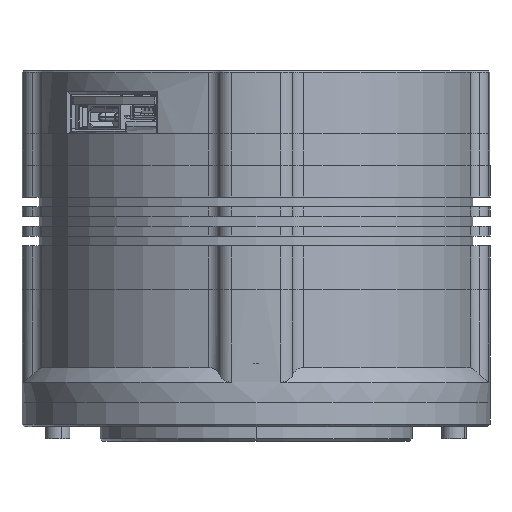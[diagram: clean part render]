
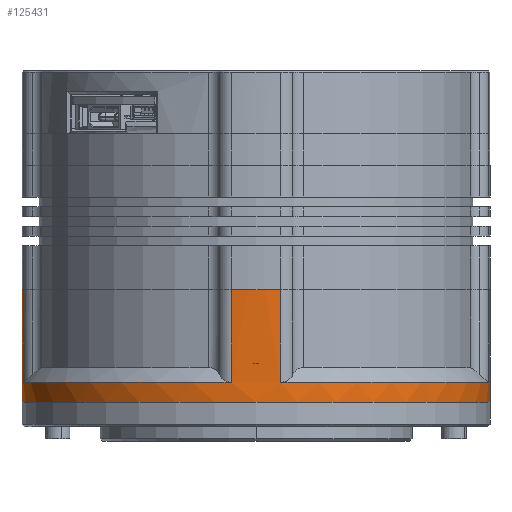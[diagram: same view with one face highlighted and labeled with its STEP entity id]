
A CAD part, front view. The second image highlights one B-rep face of the part: STEP entity #125431.
In plain terms, the highlighted cylindrical face has radius 48 mm (diameter 96 mm), a partial arc.
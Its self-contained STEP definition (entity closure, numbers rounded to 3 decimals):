
#1269 = CARTESIAN_POINT ( 'NONE',  ( -5.093, 23.1, 47.729 ) ) ;
#1360 = EDGE_LOOP ( 'NONE', ( #8471, #11304, #86524, #116928, #35773, #116336, #1703, #40946, #33873, #123012, #107004, #127170 ) ) ;
#1517 = AXIS2_PLACEMENT_3D ( 'NONE', #67242, #56515, #110091 ) ;
#1703 = ORIENTED_EDGE ( 'NONE', *, *, #72660, .T. ) ;
#1876 = CARTESIAN_POINT ( 'NONE',  ( 0., 0., 48. ) ) ;
#2258 = CARTESIAN_POINT ( 'NONE',  ( 0., 23.1, -48. ) ) ;
#4343 = CARTESIAN_POINT ( 'NONE',  ( 0., 23.1, 0. ) ) ;
#4465 = CYLINDRICAL_SURFACE ( 'NONE', #34546, 48. ) ;
#4627 = EDGE_CURVE ( 'NONE', #73820, #111396, #25259, .T. ) ;
#5869 = EDGE_CURVE ( 'NONE', #28939, #106093, #130091, .T. ) ;
#7347 = LINE ( 'NONE', #71531, #16673 ) ;
#8442 = LINE ( 'NONE', #61183, #56055 ) ;
#8471 = ORIENTED_EDGE ( 'NONE', *, *, #62338, .F. ) ;
#10276 = CIRCLE ( 'NONE', #64917, 48. ) ;
#10654 = DIRECTION ( 'NONE',  ( 0., -1., 0. ) ) ;
#11304 = ORIENTED_EDGE ( 'NONE', *, *, #136432, .F. ) ;
#12148 = DIRECTION ( 'NONE',  ( 0., -1., 0. ) ) ;
#14830 = CARTESIAN_POINT ( 'NONE',  ( -5.093, 23.1, -47.729 ) ) ;
#16673 = VECTOR ( 'NONE', #10654, 1000. ) ;
#19721 = CARTESIAN_POINT ( 'NONE',  ( 0., 23.1, 48. ) ) ;
#23471 = EDGE_CURVE ( 'NONE', #73820, #41354, #37345, .T. ) ;
#24099 = LINE ( 'NONE', #1269, #52415 ) ;
#24702 = VECTOR ( 'NONE', #46894, 1000. ) ;
#25152 = FACE_OUTER_BOUND ( 'NONE', #1360, .T. ) ;
#25259 = CIRCLE ( 'NONE', #98102, 48. ) ;
#26022 = CARTESIAN_POINT ( 'NONE',  ( -5.093, 4.1, 47.729 ) ) ;
#28939 = VERTEX_POINT ( 'NONE', #92356 ) ;
#29146 = EDGE_CURVE ( 'NONE', #41354, #132526, #111455, .T. ) ;
#29588 = VECTOR ( 'NONE', #92293, 1000. ) ;
#30967 = EDGE_CURVE ( 'NONE', #34676, #48837, #24099, .T. ) ;
#31975 = DIRECTION ( 'NONE',  ( 0., -1., 0. ) ) ;
#33873 = ORIENTED_EDGE ( 'NONE', *, *, #76629, .T. ) ;
#34546 = AXIS2_PLACEMENT_3D ( 'NONE', #68652, #47915, #134241 ) ;
#34676 = VERTEX_POINT ( 'NONE', #35070 ) ;
#35070 = CARTESIAN_POINT ( 'NONE',  ( -5.093, 23.1, 47.729 ) ) ;
#35773 = ORIENTED_EDGE ( 'NONE', *, *, #60633, .T. ) ;
#37345 = LINE ( 'NONE', #48754, #29588 ) ;
#40946 = ORIENTED_EDGE ( 'NONE', *, *, #5869, .T. ) ;
#41354 = VERTEX_POINT ( 'NONE', #127007 ) ;
#42630 = DIRECTION ( 'NONE',  ( 0., 0., 1. ) ) ;
#46894 = DIRECTION ( 'NONE',  ( 0., 1., 0. ) ) ;
#47915 = DIRECTION ( 'NONE',  ( 0., -1., 0. ) ) ;
#48754 = CARTESIAN_POINT ( 'NONE',  ( 0., 23.1, -48. ) ) ;
#48837 = VERTEX_POINT ( 'NONE', #26022 ) ;
#52415 = VECTOR ( 'NONE', #31975, 1000. ) ;
#54132 = VECTOR ( 'NONE', #59290, 1000. ) ;
#55571 = DIRECTION ( 'NONE',  ( 0., 0., 1. ) ) ;
#56055 = VECTOR ( 'NONE', #117550, 1000. ) ;
#56515 = DIRECTION ( 'NONE',  ( 0., 1., 0. ) ) ;
#59181 = DIRECTION ( 'NONE',  ( 0., 0., 1. ) ) ;
#59290 = DIRECTION ( 'NONE',  ( 0., -1., 0. ) ) ;
#60633 = EDGE_CURVE ( 'NONE', #106374, #75384, #8442, .T. ) ;
#61183 = CARTESIAN_POINT ( 'NONE',  ( -47.729, 23.1, 5.093 ) ) ;
#62338 = EDGE_CURVE ( 'NONE', #107697, #132526, #91451, .T. ) ;
#62648 = CARTESIAN_POINT ( 'NONE',  ( 0., 23.1, 0. ) ) ;
#64917 = AXIS2_PLACEMENT_3D ( 'NONE', #62648, #106219, #42630 ) ;
#66029 = DIRECTION ( 'NONE',  ( 0., -1., 0. ) ) ;
#66556 = CARTESIAN_POINT ( 'NONE',  ( 0., 0., 0. ) ) ;
#67242 = CARTESIAN_POINT ( 'NONE',  ( 0., 23.1, 0. ) ) ;
#68652 = CARTESIAN_POINT ( 'NONE',  ( 0., 23.1, 0. ) ) ;
#70366 = VERTEX_POINT ( 'NONE', #110690 ) ;
#71531 = CARTESIAN_POINT ( 'NONE',  ( -47.729, 23.1, -5.093 ) ) ;
#72660 = EDGE_CURVE ( 'NONE', #70366, #28939, #7347, .T. ) ;
#73382 = CARTESIAN_POINT ( 'NONE',  ( -47.729, 4.1, 5.093 ) ) ;
#73820 = VERTEX_POINT ( 'NONE', #2258 ) ;
#75384 = VERTEX_POINT ( 'NONE', #119695 ) ;
#75859 = DIRECTION ( 'NONE',  ( 0., 1., 0. ) ) ;
#76629 = EDGE_CURVE ( 'NONE', #106093, #111396, #111877, .T. ) ;
#80590 = EDGE_CURVE ( 'NONE', #48837, #106374, #118651, .T. ) ;
#82801 = CARTESIAN_POINT ( 'NONE',  ( -5.093, 23.1, -47.729 ) ) ;
#86524 = ORIENTED_EDGE ( 'NONE', *, *, #30967, .T. ) ;
#87428 = CARTESIAN_POINT ( 'NONE',  ( 0., 4.1, 0. ) ) ;
#88500 = EDGE_CURVE ( 'NONE', #70366, #75384, #10276, .T. ) ;
#91451 = LINE ( 'NONE', #134938, #54132 ) ;
#92293 = DIRECTION ( 'NONE',  ( 0., -1., 0. ) ) ;
#92356 = CARTESIAN_POINT ( 'NONE',  ( -47.729, 4.1, -5.093 ) ) ;
#98102 = AXIS2_PLACEMENT_3D ( 'NONE', #4343, #132713, #59181 ) ;
#106093 = VERTEX_POINT ( 'NONE', #111269 ) ;
#106219 = DIRECTION ( 'NONE',  ( 0., 1., 0. ) ) ;
#106374 = VERTEX_POINT ( 'NONE', #73382 ) ;
#107004 = ORIENTED_EDGE ( 'NONE', *, *, #23471, .T. ) ;
#107697 = VERTEX_POINT ( 'NONE', #19721 ) ;
#109603 = AXIS2_PLACEMENT_3D ( 'NONE', #87428, #66029, #130926 ) ;
#110091 = DIRECTION ( 'NONE',  ( 0., 0., 1. ) ) ;
#110690 = CARTESIAN_POINT ( 'NONE',  ( -47.729, 23.1, -5.093 ) ) ;
#111269 = CARTESIAN_POINT ( 'NONE',  ( -5.093, 4.1, -47.729 ) ) ;
#111396 = VERTEX_POINT ( 'NONE', #82801 ) ;
#111455 = CIRCLE ( 'NONE', #129641, 48. ) ;
#111877 = LINE ( 'NONE', #14830, #24702 ) ;
#116336 = ORIENTED_EDGE ( 'NONE', *, *, #88500, .F. ) ;
#116512 = AXIS2_PLACEMENT_3D ( 'NONE', #122699, #12148, #55571 ) ;
#116928 = ORIENTED_EDGE ( 'NONE', *, *, #80590, .T. ) ;
#117550 = DIRECTION ( 'NONE',  ( 0., 1., 0. ) ) ;
#118651 = CIRCLE ( 'NONE', #109603, 48. ) ;
#118688 = DIRECTION ( 'NONE',  ( 0., 0., 1. ) ) ;
#119695 = CARTESIAN_POINT ( 'NONE',  ( -47.729, 23.1, 5.093 ) ) ;
#122699 = CARTESIAN_POINT ( 'NONE',  ( 0., 4.1, 0. ) ) ;
#123012 = ORIENTED_EDGE ( 'NONE', *, *, #4627, .F. ) ;
#125431 = ADVANCED_FACE ( 'NONE', ( #25152 ), #4465, .T. ) ;
#127007 = CARTESIAN_POINT ( 'NONE',  ( 0., 0., -48. ) ) ;
#127170 = ORIENTED_EDGE ( 'NONE', *, *, #29146, .T. ) ;
#129641 = AXIS2_PLACEMENT_3D ( 'NONE', #66556, #75859, #118688 ) ;
#130091 = CIRCLE ( 'NONE', #116512, 48. ) ;
#130926 = DIRECTION ( 'NONE',  ( 0., 0., 1. ) ) ;
#132526 = VERTEX_POINT ( 'NONE', #1876 ) ;
#132713 = DIRECTION ( 'NONE',  ( 0., 1., 0. ) ) ;
#134241 = DIRECTION ( 'NONE',  ( 0., 0., -1. ) ) ;
#134938 = CARTESIAN_POINT ( 'NONE',  ( 0., 23.1, 48. ) ) ;
#136432 = EDGE_CURVE ( 'NONE', #34676, #107697, #138257, .T. ) ;
#138257 = CIRCLE ( 'NONE', #1517, 48. ) ;
